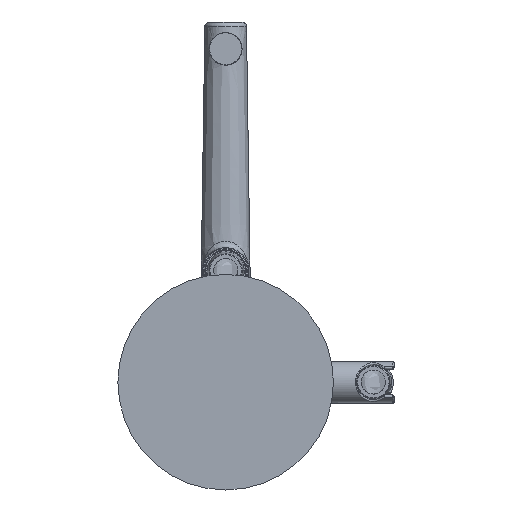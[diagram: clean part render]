
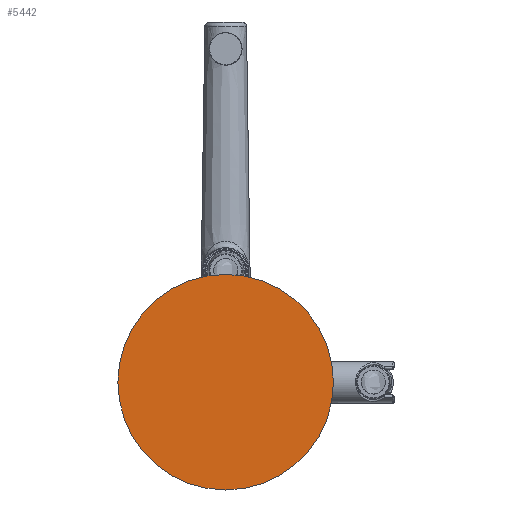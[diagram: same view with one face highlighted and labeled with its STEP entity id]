
A CAD part, front view. The second image highlights one B-rep face of the part: STEP entity #5442.
In plain terms, the highlighted planar face has unit normal (0, -1, 0).
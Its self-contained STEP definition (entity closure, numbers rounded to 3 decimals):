
#1676 = EDGE_CURVE ( 'NONE', #18100, #13052, #20928, .T. ) ;
#2306 = CARTESIAN_POINT ( 'NONE',  ( 0., 0., 0. ) ) ;
#5371 = CIRCLE ( 'NONE', #22839, 67.5 ) ;
#5442 = ADVANCED_FACE ( 'NONE', ( #26418 ), #7670, .F. ) ;
#7670 = PLANE ( 'NONE',  #12608 ) ;
#7713 = CARTESIAN_POINT ( 'NONE',  ( -67.5, 0., 0. ) ) ;
#8322 = CARTESIAN_POINT ( 'NONE',  ( 0., 0., 0. ) ) ;
#8704 = AXIS2_PLACEMENT_3D ( 'NONE', #8322, #12432, #21056 ) ;
#9857 = DIRECTION ( 'NONE',  ( 1., 0., 0. ) ) ;
#11916 = DIRECTION ( 'NONE',  ( 0., 1., 0. ) ) ;
#12432 = DIRECTION ( 'NONE',  ( 0., -1., 0. ) ) ;
#12608 = AXIS2_PLACEMENT_3D ( 'NONE', #24369, #11916, #9857 ) ;
#13052 = VERTEX_POINT ( 'NONE', #7713 ) ;
#14741 = DIRECTION ( 'NONE',  ( 1., 0., 0. ) ) ;
#15024 = DIRECTION ( 'NONE',  ( 0., -1., 0. ) ) ;
#16160 = CARTESIAN_POINT ( 'NONE',  ( 67.5, 0., 0. ) ) ;
#18100 = VERTEX_POINT ( 'NONE', #16160 ) ;
#19074 = ORIENTED_EDGE ( 'NONE', *, *, #22150, .T. ) ;
#19539 = ORIENTED_EDGE ( 'NONE', *, *, #1676, .T. ) ;
#20928 = CIRCLE ( 'NONE', #8704, 67.5 ) ;
#21056 = DIRECTION ( 'NONE',  ( 1., 0., 0. ) ) ;
#22150 = EDGE_CURVE ( 'NONE', #13052, #18100, #5371, .T. ) ;
#22839 = AXIS2_PLACEMENT_3D ( 'NONE', #2306, #15024, #14741 ) ;
#23487 = EDGE_LOOP ( 'NONE', ( #19074, #19539 ) ) ;
#24369 = CARTESIAN_POINT ( 'NONE',  ( 0., 0., 0. ) ) ;
#26418 = FACE_OUTER_BOUND ( 'NONE', #23487, .T. ) ;
